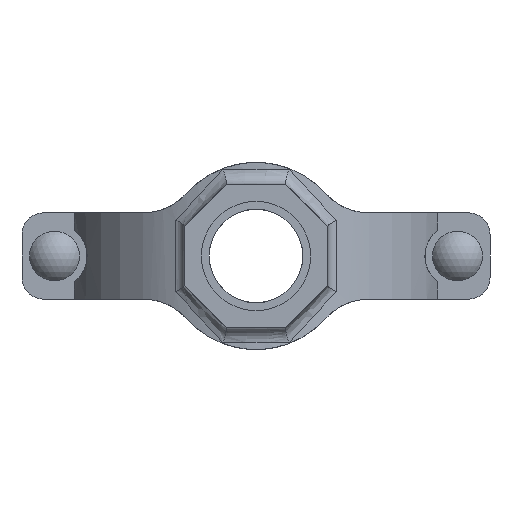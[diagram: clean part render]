
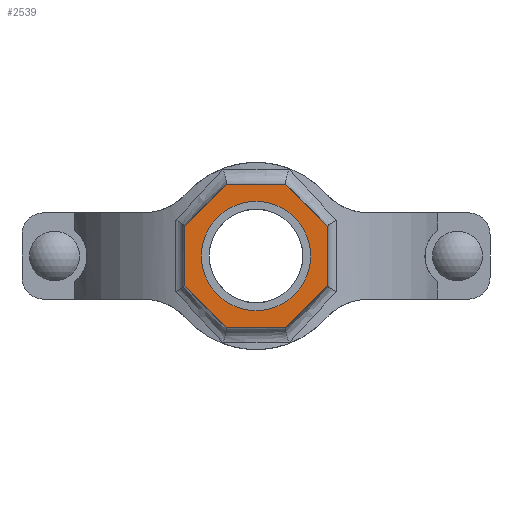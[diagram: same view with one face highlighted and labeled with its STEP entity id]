
A CAD part, front view. The second image highlights one B-rep face of the part: STEP entity #2539.
In plain terms, the highlighted planar face has unit normal (0, -1, 0) as drawn and (0, 1, 0) by its records, which use the part's own axes.
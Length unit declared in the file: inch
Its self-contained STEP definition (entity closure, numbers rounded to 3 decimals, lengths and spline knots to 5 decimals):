
#186=FACE_BOUND('',#459,.T.);
#307=FACE_OUTER_BOUND('',#458,.T.);
#458=EDGE_LOOP('',(#2138,#2139,#2140,#2141,#2142,#2143,#2144,#2145));
#459=EDGE_LOOP('',(#2146));
#594=LINE('',#4845,#780);
#597=LINE('',#4850,#783);
#599=LINE('',#4854,#785);
#601=LINE('',#4858,#787);
#641=LINE('',#5307,#827);
#643=LINE('',#5311,#829);
#645=LINE('',#5315,#831);
#647=LINE('',#5318,#833);
#780=VECTOR('',#3278,0.3937);
#783=VECTOR('',#3283,0.3937);
#785=VECTOR('',#3287,0.3937);
#787=VECTOR('',#3291,0.3937);
#827=VECTOR('',#3427,0.3937);
#829=VECTOR('',#3431,0.3937);
#831=VECTOR('',#3435,0.3937);
#833=VECTOR('',#3439,0.3937);
#919=CIRCLE('',#2802,0.95);
#1097=VERTEX_POINT('',#4842);
#1098=VERTEX_POINT('',#4844);
#1099=VERTEX_POINT('',#4848);
#1100=VERTEX_POINT('',#4852);
#1101=VERTEX_POINT('',#4856);
#1136=VERTEX_POINT('',#5144);
#1160=VERTEX_POINT('',#5306);
#1161=VERTEX_POINT('',#5310);
#1162=VERTEX_POINT('',#5314);
#1408=EDGE_CURVE('',#1098,#1097,#594,.T.);
#1411=EDGE_CURVE('',#1097,#1099,#597,.T.);
#1413=EDGE_CURVE('',#1099,#1100,#599,.T.);
#1415=EDGE_CURVE('',#1100,#1101,#601,.T.);
#1461=EDGE_CURVE('',#1136,#1136,#919,.T.);
#1495=EDGE_CURVE('',#1160,#1098,#641,.T.);
#1497=EDGE_CURVE('',#1161,#1160,#643,.T.);
#1499=EDGE_CURVE('',#1162,#1161,#645,.T.);
#1501=EDGE_CURVE('',#1101,#1162,#647,.T.);
#2138=ORIENTED_EDGE('',*,*,#1501,.T.);
#2139=ORIENTED_EDGE('',*,*,#1499,.T.);
#2140=ORIENTED_EDGE('',*,*,#1497,.T.);
#2141=ORIENTED_EDGE('',*,*,#1495,.T.);
#2142=ORIENTED_EDGE('',*,*,#1408,.T.);
#2143=ORIENTED_EDGE('',*,*,#1411,.T.);
#2144=ORIENTED_EDGE('',*,*,#1413,.T.);
#2145=ORIENTED_EDGE('',*,*,#1415,.T.);
#2146=ORIENTED_EDGE('',*,*,#1461,.T.);
#2280=PLANE('',#2825);
#2539=ADVANCED_FACE('',(#307,#186),#2280,.T.);
#2802=AXIS2_PLACEMENT_3D('',#5145,#3369,#3370);
#2825=AXIS2_PLACEMENT_3D('',#5319,#3440,#3441);
#3278=DIRECTION('',(0.,0.,1.));
#3283=DIRECTION('',(0.707,0.,0.707));
#3287=DIRECTION('',(1.,0.,0.));
#3291=DIRECTION('',(0.707,0.,-0.707));
#3369=DIRECTION('center_axis',(0.,-1.,0.));
#3370=DIRECTION('ref_axis',(-1.,0.,0.));
#3427=DIRECTION('',(-0.707,0.,0.707));
#3431=DIRECTION('',(-1.,0.,0.));
#3435=DIRECTION('',(-0.707,0.,-0.707));
#3439=DIRECTION('',(0.,0.,-1.));
#3440=DIRECTION('center_axis',(0.,1.,0.));
#3441=DIRECTION('ref_axis',(0.,0.,1.));
#4842=CARTESIAN_POINT('',(-1.25,4.5,0.51777));
#4844=CARTESIAN_POINT('',(-1.25,4.5,-0.51777));
#4845=CARTESIAN_POINT('',(-1.25,4.5,0.51777));
#4848=CARTESIAN_POINT('',(-0.51777,4.5,1.25));
#4850=CARTESIAN_POINT('',(-0.51777,4.5,1.25));
#4852=CARTESIAN_POINT('',(0.51777,4.5,1.25));
#4854=CARTESIAN_POINT('',(0.51777,4.5,1.25));
#4856=CARTESIAN_POINT('',(1.25,4.5,0.51777));
#4858=CARTESIAN_POINT('',(1.25,4.5,0.51777));
#5144=CARTESIAN_POINT('',(0.95,4.5,0.));
#5145=CARTESIAN_POINT('Origin',(0.,4.5,0.));
#5306=CARTESIAN_POINT('',(-0.51777,4.5,-1.25));
#5307=CARTESIAN_POINT('',(-1.25,4.5,-0.51777));
#5310=CARTESIAN_POINT('',(0.51777,4.5,-1.25));
#5311=CARTESIAN_POINT('',(-0.51777,4.5,-1.25));
#5314=CARTESIAN_POINT('',(1.25,4.5,-0.51777));
#5315=CARTESIAN_POINT('',(0.51777,4.5,-1.25));
#5318=CARTESIAN_POINT('',(1.25,4.5,-0.51777));
#5319=CARTESIAN_POINT('Origin',(0.,4.5,0.));
